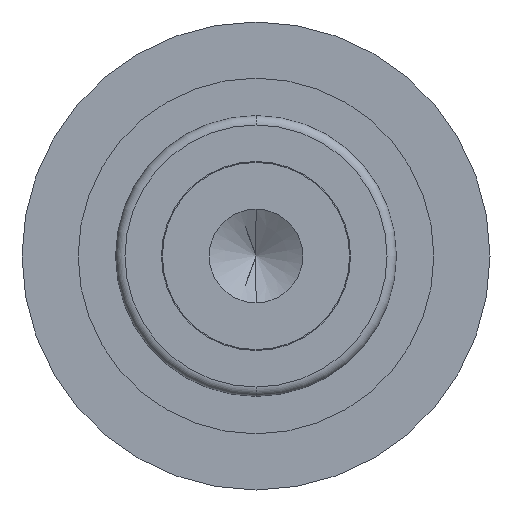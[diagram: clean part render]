
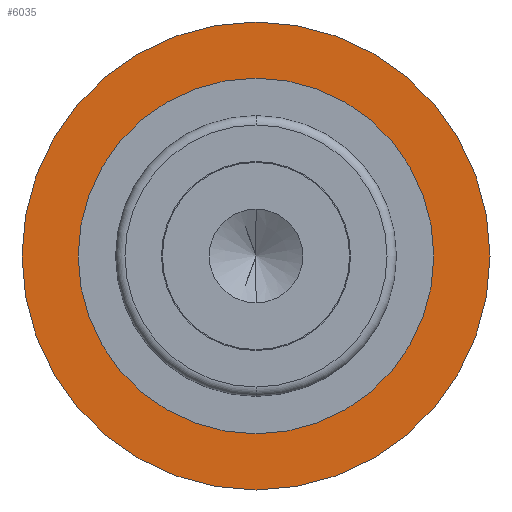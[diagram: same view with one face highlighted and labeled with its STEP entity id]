
A CAD part, front view. The second image highlights one B-rep face of the part: STEP entity #6035.
In plain terms, the highlighted planar face has unit normal (0, -1, 0).
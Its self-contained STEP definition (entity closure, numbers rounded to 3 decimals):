
#362 = DIRECTION ( 'NONE',  ( 0., 0., -1. ) ) ;
#697 = CARTESIAN_POINT ( 'NONE',  ( 0., 10.5, 0. ) ) ;
#701 = CIRCLE ( 'NONE', #6802, 12.5 ) ;
#718 = CARTESIAN_POINT ( 'NONE',  ( 0., 10.5, 12.5 ) ) ;
#773 = VERTEX_POINT ( 'NONE', #718 ) ;
#1222 = CIRCLE ( 'NONE', #5807, 9.5 ) ;
#1324 = CARTESIAN_POINT ( 'NONE',  ( 0., 10.5, -12.5 ) ) ;
#1366 = DIRECTION ( 'NONE',  ( 0., 0., -1. ) ) ;
#1375 = EDGE_CURVE ( 'NONE', #5303, #3880, #1222, .T. ) ;
#2002 = DIRECTION ( 'NONE',  ( 0., 0., -1. ) ) ;
#2025 = CARTESIAN_POINT ( 'NONE',  ( 0., 10.5, 9.5 ) ) ;
#2182 = CIRCLE ( 'NONE', #7859, 9.5 ) ;
#2287 = DIRECTION ( 'NONE',  ( 0., -1., 0. ) ) ;
#2754 = CIRCLE ( 'NONE', #6264, 12.5 ) ;
#2781 = CARTESIAN_POINT ( 'NONE',  ( 0., 10.5, -9.5 ) ) ;
#3176 = FACE_BOUND ( 'NONE', #5356, .T. ) ;
#3274 = VERTEX_POINT ( 'NONE', #1324 ) ;
#3294 = CARTESIAN_POINT ( 'NONE',  ( 0., 10.5, 0. ) ) ;
#3378 = EDGE_CURVE ( 'NONE', #773, #3274, #2754, .T. ) ;
#3880 = VERTEX_POINT ( 'NONE', #2025 ) ;
#4004 = DIRECTION ( 'NONE',  ( 0., 0., -1. ) ) ;
#4089 = CARTESIAN_POINT ( 'NONE',  ( 12.5, 10.5, 0. ) ) ;
#4454 = AXIS2_PLACEMENT_3D ( 'NONE', #4089, #6149, #2002 ) ;
#4470 = DIRECTION ( 'NONE',  ( 0., -1., 0. ) ) ;
#5048 = FACE_OUTER_BOUND ( 'NONE', #6867, .T. ) ;
#5238 = ORIENTED_EDGE ( 'NONE', *, *, #7741, .T. ) ;
#5303 = VERTEX_POINT ( 'NONE', #2781 ) ;
#5356 = EDGE_LOOP ( 'NONE', ( #6594, #6393 ) ) ;
#5423 = PLANE ( 'NONE',  #4454 ) ;
#5512 = DIRECTION ( 'NONE',  ( 0., -1., 0. ) ) ;
#5807 = AXIS2_PLACEMENT_3D ( 'NONE', #3294, #8076, #4004 ) ;
#6035 = ADVANCED_FACE ( 'NONE', ( #5048, #3176 ), #5423, .T. ) ;
#6149 = DIRECTION ( 'NONE',  ( 0., -1., 0. ) ) ;
#6264 = AXIS2_PLACEMENT_3D ( 'NONE', #6441, #2287, #7124 ) ;
#6393 = ORIENTED_EDGE ( 'NONE', *, *, #7315, .F. ) ;
#6441 = CARTESIAN_POINT ( 'NONE',  ( 0., 10.5, 0. ) ) ;
#6594 = ORIENTED_EDGE ( 'NONE', *, *, #1375, .F. ) ;
#6802 = AXIS2_PLACEMENT_3D ( 'NONE', #697, #5512, #1366 ) ;
#6867 = EDGE_LOOP ( 'NONE', ( #5238, #8512 ) ) ;
#7124 = DIRECTION ( 'NONE',  ( 0., 0., -1. ) ) ;
#7315 = EDGE_CURVE ( 'NONE', #3880, #5303, #2182, .T. ) ;
#7741 = EDGE_CURVE ( 'NONE', #3274, #773, #701, .T. ) ;
#7859 = AXIS2_PLACEMENT_3D ( 'NONE', #8500, #4470, #362 ) ;
#8076 = DIRECTION ( 'NONE',  ( 0., -1., 0. ) ) ;
#8500 = CARTESIAN_POINT ( 'NONE',  ( 0., 10.5, 0. ) ) ;
#8512 = ORIENTED_EDGE ( 'NONE', *, *, #3378, .T. ) ;
